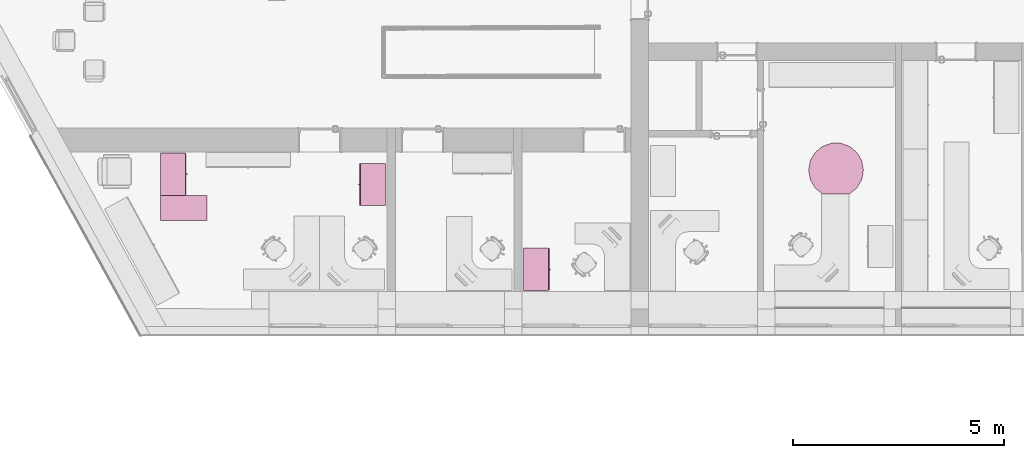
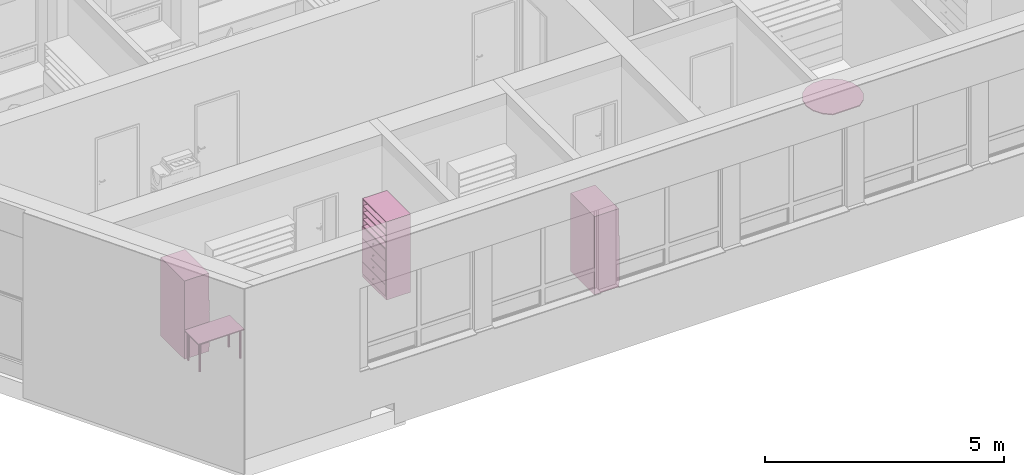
# One storey, part 128 of 194: 5 furnishings.
"""IFC2X3 building model written with IfcOpenShell, lengths in millimetres."""

from ifc_helpers import new_model, entity, si_unit, converted_unit, derived_unit, money_unit, direction, frame, origin_with_axes, place, context, subcontext, project, spatial, faceted_brep, source, transform, mapped, type_object, element, save


model = new_model("IFC2X3")

# Units and contexts
model_context = context("Model", 3, precision=1e-05, world=origin_with_axes(), true_north=direction((0.0, 1.0)))
body_context = subcontext(model_context, "Body", "Model", "MODEL_VIEW")
ifc_project = project(units=[si_unit("LENGTHUNIT", "METRE", prefix="MILLI"), si_unit("AREAUNIT", "SQUARE_METRE"), si_unit("VOLUMEUNIT", "CUBIC_METRE"), converted_unit("PLANEANGLEUNIT", "DEGREE", entity("IfcPlaneAngleMeasure", 0.0174532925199), si_unit("PLANEANGLEUNIT", "RADIAN"), dimensions=[0, 0, 0, 0, 0, 0, 0]), si_unit("SOLIDANGLEUNIT", "STERADIAN"), money_unit("EUR"), converted_unit("TIMEUNIT", "Year", entity("IfcTimeMeasure", 31556926.0), si_unit("TIMEUNIT", "SECOND"), dimensions=[0, 0, 1, 0, 0, 0, 0]), si_unit("MASSUNIT", "GRAM", prefix="KILO"), si_unit("THERMODYNAMICTEMPERATUREUNIT", "DEGREE_CELSIUS"), si_unit("LUMINOUSINTENSITYUNIT", "LUMEN"), si_unit("ENERGYUNIT", "JOULE", prefix="MEGA"), derived_unit("THERMALCONDUCTANCEUNIT", [(si_unit("POWERUNIT", "WATT"), 1), (si_unit("LENGTHUNIT", "METRE"), -1), (si_unit("THERMODYNAMICTEMPERATUREUNIT", "KELVIN"), -1)]), derived_unit("SPECIFICHEATCAPACITYUNIT", [(si_unit("ENERGYUNIT", "JOULE"), 1), (si_unit("MASSUNIT", "GRAM", prefix="KILO"), -1), (si_unit("THERMODYNAMICTEMPERATUREUNIT", "KELVIN"), -1)]), derived_unit("MASSDENSITYUNIT", [(si_unit("MASSUNIT", "GRAM", prefix="KILO"), 1), (si_unit("VOLUMEUNIT", "CUBIC_METRE"), -1)])], contexts=[model_context])

# Site, building, storey
site_placement = place(None, origin_with_axes())
site = spatial("IfcSite", under=ifc_project, at=site_placement, Name="Site", CompositionType="ELEMENT")
building_placement = place(site_placement, origin_with_axes())
building = spatial("IfcBuilding", under=site, at=building_placement, Name="Building", CompositionType="ELEMENT")
storey_placement = place(building_placement, frame((0.0, 0.0, 3000.0), z_axis=(0.0, 0.0, 1.0), x_axis=(1.0, 0.0, 0.0)))
storey = spatial("IfcBuildingStorey", under=building, at=storey_placement, Name="2 KORRUS", CompositionType="ELEMENT", Elevation=3000.0)

# Furnishings
furnishing_element_type_1 = type_object("IfcFurnishingElementType", Name="Model Element 22")
shared_shape_1 = source(origin_with_axes(), body_context, "Body", "Brep", [
    faceted_brep([(562.91651246, -325.0, 725.0), (562.91651246, 325.0, 725.0), (562.91651246, 325.0, 750.0), (562.91651246, -325.0, 750.0), (417.811946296, -497.928888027, 725.0), (222.313093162, -610.800203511, 725.0), (0.0, -650.0, 725.0), (-222.313093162, -610.800203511, 725.0), (-417.811946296, -497.928888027, 725.0), (-562.91651246, -325.0, 725.0), (-640.125039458, -112.871315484, 725.0), (-640.125039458, 112.871315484, 725.0), (-562.91651246, 325.0, 725.0), (-417.811946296, 497.928888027, 725.0), (-222.313093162, 610.800203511, 725.0), (0.0, 650.0, 725.0), (222.313093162, 610.800203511, 725.0), (417.811946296, 497.928888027, 725.0), (417.811946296, 497.928888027, 750.0), (222.313093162, 610.800203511, 750.0), (0.0, 650.0, 750.0), (-222.313093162, 610.800203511, 750.0), (-417.811946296, 497.928888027, 750.0), (-562.91651246, 325.0, 750.0), (-640.125039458, 112.871315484, 750.0), (-640.125039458, -112.871315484, 750.0), (-562.91651246, -325.0, 750.0), (-417.811946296, -497.928888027, 750.0), (-222.313093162, -610.800203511, 750.0), (0.0, -650.0, 750.0), (222.313093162, -610.800203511, 750.0), (417.811946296, -497.928888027, 750.0)], [[[0, 1, 2, 3]], [[0, 4, 5, 6, 7, 8, 9, 10, 11, 12, 13, 14, 15, 16, 17, 1]], [[1, 17, 18, 2]], [[3, 2, 18, 19, 20, 21, 22, 23, 24, 25, 26, 27, 28, 29, 30, 31]], [[4, 0, 3, 31]], [[5, 4, 31, 30]], [[6, 5, 30, 29]], [[7, 6, 29, 28]], [[8, 7, 28, 27]], [[9, 8, 27, 26]], [[10, 9, 26, 25]], [[11, 10, 25, 24]], [[12, 11, 24, 23]], [[13, 12, 23, 22]], [[14, 13, 22, 21]], [[15, 14, 21, 20]], [[16, 15, 20, 19]], [[17, 16, 19, 18]]]),
])
furnishing_1_placement = place(storey_placement, frame((20599.5373297, 62610.3418726, 0.0), z_axis=(0.0, 0.0, 1.0), x_axis=(0.0, -1.0, 0.0)))
element("IfcFurnishingElement", 1, at=furnishing_1_placement, inside=storey, type_object=furnishing_element_type_1, Name="FU - 005", context=body_context, shape_type="MappedRepresentation", body=[
    mapped(shared_shape_1, transform((0.0, 0.0, 0.0))),
])
furnishing_element_type_2 = type_object("IfcFurnishingElementType", Name="Model Element 80")
shared_shape_2 = source(origin_with_axes(), body_context, "Body", "Brep", [
    faceted_brep([(0.0, 0.0, 725.0), (1100.0, 0.0, 725.0), (1100.0, 0.0, 750.0), (0.0, 0.0, 750.0), (0.0, 600.0, 725.0), (1100.0, 600.0, 725.0), (1100.0, 600.0, 750.0), (0.0, 600.0, 750.0)], [[[0, 1, 2, 3]], [[0, 4, 5, 1]], [[1, 5, 6, 2]], [[3, 2, 6, 7]], [[4, 0, 3, 7]], [[5, 4, 7, 6]]]),
    faceted_brep([(77.6776695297, 77.6776695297, 10.0), (85.0, 60.0, 10.0), (77.6776695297, 42.3223304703, 10.0), (60.0, 35.0, 10.0), (42.3223304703, 42.3223304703, 10.0), (35.0, 60.0, 10.0), (42.3223304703, 77.6776695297, 10.0), (60.0, 85.0, 10.0), (77.6776695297, 77.6776695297, 725.0), (85.0, 60.0, 725.0), (77.6776695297, 42.3223304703, 725.0), (60.0, 35.0, 725.0), (42.3223304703, 42.3223304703, 725.0), (35.0, 60.0, 725.0), (42.3223304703, 77.6776695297, 725.0), (60.0, 85.0, 725.0)], [[[0, 1, 2, 3, 4, 5, 6, 7]], [[1, 0, 8, 9]], [[2, 1, 9, 10]], [[3, 2, 10, 11]], [[4, 3, 11, 12]], [[5, 4, 12, 13]], [[6, 5, 13, 14]], [[7, 6, 14, 15]], [[0, 7, 15, 8]], [[8, 15, 14, 13, 12, 11, 10, 9]]]),
    faceted_brep([(81.2132034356, 81.2132034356, 0.0), (90.0, 60.0, 0.0), (81.2132034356, 38.7867965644, 0.0), (60.0, 30.0, 0.0), (38.7867965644, 38.7867965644, 0.0), (30.0, 60.0, 0.0), (38.7867965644, 81.2132034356, 0.0), (60.0, 90.0, 0.0), (81.2132034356, 81.2132034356, 10.0), (90.0, 60.0, 10.0), (81.2132034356, 38.7867965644, 10.0), (60.0, 30.0, 10.0), (38.7867965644, 38.7867965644, 10.0), (30.0, 60.0, 10.0), (38.7867965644, 81.2132034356, 10.0), (60.0, 90.0, 10.0)], [[[0, 1, 2, 3, 4, 5, 6, 7]], [[1, 0, 8, 9]], [[2, 1, 9, 10]], [[3, 2, 10, 11]], [[4, 3, 11, 12]], [[5, 4, 12, 13]], [[6, 5, 13, 14]], [[7, 6, 14, 15]], [[0, 7, 15, 8]], [[8, 15, 14, 13, 12, 11, 10, 9]]]),
    faceted_brep([(77.6776695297, 557.67766953, 10.0), (85.0, 540.0, 10.0), (77.6776695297, 522.32233047, 10.0), (60.0, 515.0, 10.0), (42.3223304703, 522.32233047, 10.0), (35.0, 540.0, 10.0), (42.3223304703, 557.67766953, 10.0), (60.0, 565.0, 10.0), (77.6776695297, 557.67766953, 725.0), (85.0, 540.0, 725.0), (77.6776695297, 522.32233047, 725.0), (60.0, 515.0, 725.0), (42.3223304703, 522.32233047, 725.0), (35.0, 540.0, 725.0), (42.3223304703, 557.67766953, 725.0), (60.0, 565.0, 725.0)], [[[0, 1, 2, 3, 4, 5, 6, 7]], [[1, 0, 8, 9]], [[2, 1, 9, 10]], [[3, 2, 10, 11]], [[4, 3, 11, 12]], [[5, 4, 12, 13]], [[6, 5, 13, 14]], [[7, 6, 14, 15]], [[0, 7, 15, 8]], [[8, 15, 14, 13, 12, 11, 10, 9]]]),
    faceted_brep([(81.2132034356, 561.213203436, 0.0), (90.0, 540.0, 0.0), (81.2132034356, 518.786796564, 0.0), (60.0, 510.0, 0.0), (38.7867965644, 518.786796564, 0.0), (30.0, 540.0, 0.0), (38.7867965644, 561.213203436, 0.0), (60.0, 570.0, 0.0), (81.2132034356, 561.213203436, 10.0), (90.0, 540.0, 10.0), (81.2132034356, 518.786796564, 10.0), (60.0, 510.0, 10.0), (38.7867965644, 518.786796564, 10.0), (30.0, 540.0, 10.0), (38.7867965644, 561.213203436, 10.0), (60.0, 570.0, 10.0)], [[[0, 1, 2, 3, 4, 5, 6, 7]], [[1, 0, 8, 9]], [[2, 1, 9, 10]], [[3, 2, 10, 11]], [[4, 3, 11, 12]], [[5, 4, 12, 13]], [[6, 5, 13, 14]], [[7, 6, 14, 15]], [[0, 7, 15, 8]], [[8, 15, 14, 13, 12, 11, 10, 9]]]),
    faceted_brep([(1057.67766953, 77.6776695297, 10.0), (1065.0, 60.0, 10.0), (1057.67766953, 42.3223304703, 10.0), (1040.0, 35.0, 10.0), (1022.32233047, 42.3223304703, 10.0), (1015.0, 60.0, 10.0), (1022.32233047, 77.6776695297, 10.0), (1040.0, 85.0, 10.0), (1057.67766953, 77.6776695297, 725.0), (1065.0, 60.0, 725.0), (1057.67766953, 42.3223304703, 725.0), (1040.0, 35.0, 725.0), (1022.32233047, 42.3223304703, 725.0), (1015.0, 60.0, 725.0), (1022.32233047, 77.6776695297, 725.0), (1040.0, 85.0, 725.0)], [[[0, 1, 2, 3, 4, 5, 6, 7]], [[1, 0, 8, 9]], [[2, 1, 9, 10]], [[3, 2, 10, 11]], [[4, 3, 11, 12]], [[5, 4, 12, 13]], [[6, 5, 13, 14]], [[7, 6, 14, 15]], [[0, 7, 15, 8]], [[8, 15, 14, 13, 12, 11, 10, 9]]]),
    faceted_brep([(1061.21320344, 81.2132034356, 0.0), (1070.0, 60.0, 0.0), (1061.21320344, 38.7867965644, 0.0), (1040.0, 30.0, 0.0), (1018.78679656, 38.7867965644, 0.0), (1010.0, 60.0, 0.0), (1018.78679656, 81.2132034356, 0.0), (1040.0, 90.0, 0.0), (1061.21320344, 81.2132034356, 10.0), (1070.0, 60.0, 10.0), (1061.21320344, 38.7867965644, 10.0), (1040.0, 30.0, 10.0), (1018.78679656, 38.7867965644, 10.0), (1010.0, 60.0, 10.0), (1018.78679656, 81.2132034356, 10.0), (1040.0, 90.0, 10.0)], [[[0, 1, 2, 3, 4, 5, 6, 7]], [[1, 0, 8, 9]], [[2, 1, 9, 10]], [[3, 2, 10, 11]], [[4, 3, 11, 12]], [[5, 4, 12, 13]], [[6, 5, 13, 14]], [[7, 6, 14, 15]], [[0, 7, 15, 8]], [[8, 15, 14, 13, 12, 11, 10, 9]]]),
    faceted_brep([(1057.67766953, 557.67766953, 10.0), (1065.0, 540.0, 10.0), (1057.67766953, 522.32233047, 10.0), (1040.0, 515.0, 10.0), (1022.32233047, 522.32233047, 10.0), (1015.0, 540.0, 10.0), (1022.32233047, 557.67766953, 10.0), (1040.0, 565.0, 10.0), (1057.67766953, 557.67766953, 725.0), (1065.0, 540.0, 725.0), (1057.67766953, 522.32233047, 725.0), (1040.0, 515.0, 725.0), (1022.32233047, 522.32233047, 725.0), (1015.0, 540.0, 725.0), (1022.32233047, 557.67766953, 725.0), (1040.0, 565.0, 725.0)], [[[0, 1, 2, 3, 4, 5, 6, 7]], [[1, 0, 8, 9]], [[2, 1, 9, 10]], [[3, 2, 10, 11]], [[4, 3, 11, 12]], [[5, 4, 12, 13]], [[6, 5, 13, 14]], [[7, 6, 14, 15]], [[0, 7, 15, 8]], [[8, 15, 14, 13, 12, 11, 10, 9]]]),
    faceted_brep([(1061.21320344, 561.213203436, 0.0), (1070.0, 540.0, 0.0), (1061.21320344, 518.786796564, 0.0), (1040.0, 510.0, 0.0), (1018.78679656, 518.786796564, 0.0), (1010.0, 540.0, 0.0), (1018.78679656, 561.213203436, 0.0), (1040.0, 570.0, 0.0), (1061.21320344, 561.213203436, 10.0), (1070.0, 540.0, 10.0), (1061.21320344, 518.786796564, 10.0), (1040.0, 510.0, 10.0), (1018.78679656, 518.786796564, 10.0), (1010.0, 540.0, 10.0), (1018.78679656, 561.213203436, 10.0), (1040.0, 570.0, 10.0)], [[[0, 1, 2, 3, 4, 5, 6, 7]], [[1, 0, 8, 9]], [[2, 1, 9, 10]], [[3, 2, 10, 11]], [[4, 3, 11, 12]], [[5, 4, 12, 13]], [[6, 5, 13, 14]], [[7, 6, 14, 15]], [[0, 7, 15, 8]], [[8, 15, 14, 13, 12, 11, 10, 9]]]),
])
furnishing_2_placement = place(storey_placement, frame((4582.94891603, 61415.2296808, 0.0), z_axis=(0.0, 0.0, 1.0), x_axis=(1.0, 0.0, 0.0)))
element("IfcFurnishingElement", 2, at=furnishing_2_placement, inside=storey, type_object=furnishing_element_type_2, Name="FU - 007", context=body_context, shape_type="MappedRepresentation", body=[
    mapped(shared_shape_2, transform((0.0, 0.0, 0.0))),
])
furnishing_element_type_3 = type_object("IfcFurnishingElementType", Name="Model Element 30")
shared_shape_3 = source(origin_with_axes(), body_context, "Body", "Brep", [
    faceted_brep([(1000.0, 19.0, 0.0), (0.0, 19.0, 0.0), (0.0, 607.542755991, 0.0), (1000.0, 607.542755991, 0.0), (1000.0, 19.0, 100.0), (0.0, 19.0, 100.0), (0.0, 607.542755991, 100.0), (1000.0, 607.542755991, 100.0)], [[[0, 1, 2, 3]], [[1, 0, 4, 5]], [[2, 1, 5, 6]], [[3, 2, 6, 7]], [[0, 3, 7, 4]], [[5, 4, 7, 6]]]),
    faceted_brep([(19.0, 607.542755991, 119.0), (19.0, 588.542755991, 119.0), (19.0, 588.542755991, 1981.0), (19.0, 607.542755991, 1981.0), (981.0, 607.542755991, 119.0), (981.0, 588.542755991, 119.0), (981.0, 588.542755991, 1981.0), (981.0, 607.542755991, 1981.0)], [[[0, 1, 2, 3]], [[0, 4, 5, 1]], [[1, 5, 6, 2]], [[3, 2, 6, 7]], [[4, 0, 3, 7]], [[5, 4, 7, 6]]]),
    faceted_brep([(1000.0, 19.0, 100.0), (981.0, 19.0, 100.0), (981.0, 607.542755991, 100.0), (1000.0, 607.542755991, 100.0), (1000.0, 19.0, 2000.0), (981.0, 19.0, 2000.0), (981.0, 607.542755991, 2000.0), (1000.0, 607.542755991, 2000.0)], [[[0, 1, 2, 3]], [[1, 0, 4, 5]], [[2, 1, 5, 6]], [[3, 2, 6, 7]], [[0, 3, 7, 4]], [[5, 4, 7, 6]]]),
    faceted_brep([(19.0, 19.0, 100.0), (0.0, 19.0, 100.0), (0.0, 607.542755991, 100.0), (19.0, 607.542755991, 100.0), (19.0, 19.0, 2000.0), (0.0, 19.0, 2000.0), (0.0, 607.542755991, 2000.0), (19.0, 607.542755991, 2000.0)], [[[0, 1, 2, 3]], [[1, 0, 4, 5]], [[2, 1, 5, 6]], [[3, 2, 6, 7]], [[0, 3, 7, 4]], [[5, 4, 7, 6]]]),
    faceted_brep([(981.0, 19.0, 100.0), (19.0, 19.0, 100.0), (19.0, 607.542755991, 100.0), (981.0, 607.542755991, 100.0), (981.0, 19.0, 119.0), (19.0, 19.0, 119.0), (19.0, 607.542755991, 119.0), (981.0, 607.542755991, 119.0)], [[[0, 1, 2, 3]], [[1, 0, 4, 5]], [[2, 1, 5, 6]], [[3, 2, 6, 7]], [[0, 3, 7, 4]], [[5, 4, 7, 6]]]),
    faceted_brep([(981.0, 19.0, 1981.0), (19.0, 19.0, 1981.0), (19.0, 607.542755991, 1981.0), (981.0, 607.542755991, 1981.0), (981.0, 19.0, 2000.0), (19.0, 19.0, 2000.0), (19.0, 607.542755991, 2000.0), (981.0, 607.542755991, 2000.0)], [[[0, 1, 2, 3]], [[1, 0, 4, 5]], [[2, 1, 5, 6]], [[3, 2, 6, 7]], [[0, 3, 7, 4]], [[5, 4, 7, 6]]]),
    faceted_brep([(5.0, 19.0, 105.0), (995.0, 19.0, 105.0), (995.0, 0.0, 105.0), (5.0, 0.0, 105.0), (5.0, 19.0, 395.0), (995.0, 19.0, 395.0), (995.0, 0.0, 395.0), (5.0, 0.0, 395.0)], [[[0, 1, 2, 3]], [[0, 4, 5, 1]], [[1, 5, 6, 2]], [[3, 2, 6, 7]], [[4, 0, 3, 7]], [[5, 4, 7, 6]]]),
    faceted_brep([(510.392304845, 0.0, 244.0), (506.0, 0.0, 239.607695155), (500.0, 0.0, 238.0), (494.0, 0.0, 239.607695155), (489.607695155, 0.0, 244.0), (488.0, 0.0, 250.0), (489.607695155, 0.0, 256.0), (494.0, 0.0, 260.392304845), (500.0, 0.0, 262.0), (506.0, 0.0, 260.392304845), (510.392304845, 0.0, 256.0), (512.0, 0.0, 250.0), (510.392304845, -25.0, 244.0), (506.0, -25.0, 239.607695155), (500.0, -25.0, 238.0), (494.0, -25.0, 239.607695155), (489.607695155, -25.0, 244.0), (488.0, -25.0, 250.0), (489.607695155, -25.0, 256.0), (494.0, -25.0, 260.392304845), (500.0, -25.0, 262.0), (506.0, -25.0, 260.392304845), (510.392304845, -25.0, 256.0), (512.0, -25.0, 250.0)], [[[0, 1, 2, 3, 4, 5, 6, 7, 8, 9, 10, 11]], [[1, 0, 12, 13]], [[2, 1, 13, 14]], [[3, 2, 14, 15]], [[4, 3, 15, 16]], [[5, 4, 16, 17]], [[6, 5, 17, 18]], [[7, 6, 18, 19]], [[8, 7, 19, 20]], [[9, 8, 20, 21]], [[10, 9, 21, 22]], [[11, 10, 22, 23]], [[0, 11, 23, 12]], [[12, 23, 22, 21, 20, 19, 18, 17, 16, 15, 14, 13]]]),
    faceted_brep([(5.0, 19.0, 405.0), (995.0, 19.0, 405.0), (995.0, 0.0, 405.0), (5.0, 0.0, 405.0), (5.0, 19.0, 695.0), (995.0, 19.0, 695.0), (995.0, 0.0, 695.0), (5.0, 0.0, 695.0)], [[[0, 1, 2, 3]], [[0, 4, 5, 1]], [[1, 5, 6, 2]], [[3, 2, 6, 7]], [[4, 0, 3, 7]], [[5, 4, 7, 6]]]),
    faceted_brep([(510.392304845, 0.0, 544.0), (506.0, 0.0, 539.607695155), (500.0, 0.0, 538.0), (494.0, 0.0, 539.607695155), (489.607695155, 0.0, 544.0), (488.0, 0.0, 550.0), (489.607695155, 0.0, 556.0), (494.0, 0.0, 560.392304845), (500.0, 0.0, 562.0), (506.0, 0.0, 560.392304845), (510.392304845, 0.0, 556.0), (512.0, 0.0, 550.0), (510.392304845, -25.0, 544.0), (506.0, -25.0, 539.607695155), (500.0, -25.0, 538.0), (494.0, -25.0, 539.607695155), (489.607695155, -25.0, 544.0), (488.0, -25.0, 550.0), (489.607695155, -25.0, 556.0), (494.0, -25.0, 560.392304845), (500.0, -25.0, 562.0), (506.0, -25.0, 560.392304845), (510.392304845, -25.0, 556.0), (512.0, -25.0, 550.0)], [[[0, 1, 2, 3, 4, 5, 6, 7, 8, 9, 10, 11]], [[1, 0, 12, 13]], [[2, 1, 13, 14]], [[3, 2, 14, 15]], [[4, 3, 15, 16]], [[5, 4, 16, 17]], [[6, 5, 17, 18]], [[7, 6, 18, 19]], [[8, 7, 19, 20]], [[9, 8, 20, 21]], [[10, 9, 21, 22]], [[11, 10, 22, 23]], [[0, 11, 23, 12]], [[12, 23, 22, 21, 20, 19, 18, 17, 16, 15, 14, 13]]]),
    faceted_brep([(5.0, 19.0, 705.0), (995.0, 19.0, 705.0), (995.0, 0.0, 705.0), (5.0, 0.0, 705.0), (5.0, 19.0, 995.0), (995.0, 19.0, 995.0), (995.0, 0.0, 995.0), (5.0, 0.0, 995.0)], [[[0, 1, 2, 3]], [[0, 4, 5, 1]], [[1, 5, 6, 2]], [[3, 2, 6, 7]], [[4, 0, 3, 7]], [[5, 4, 7, 6]]]),
    faceted_brep([(510.392304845, 0.0, 844.0), (506.0, 0.0, 839.607695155), (500.0, 0.0, 838.0), (494.0, 0.0, 839.607695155), (489.607695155, 0.0, 844.0), (488.0, 0.0, 850.0), (489.607695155, 0.0, 856.0), (494.0, 0.0, 860.392304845), (500.0, 0.0, 862.0), (506.0, 0.0, 860.392304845), (510.392304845, 0.0, 856.0), (512.0, 0.0, 850.0), (510.392304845, -25.0, 844.0), (506.0, -25.0, 839.607695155), (500.0, -25.0, 838.0), (494.0, -25.0, 839.607695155), (489.607695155, -25.0, 844.0), (488.0, -25.0, 850.0), (489.607695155, -25.0, 856.0), (494.0, -25.0, 860.392304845), (500.0, -25.0, 862.0), (506.0, -25.0, 860.392304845), (510.392304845, -25.0, 856.0), (512.0, -25.0, 850.0)], [[[0, 1, 2, 3, 4, 5, 6, 7, 8, 9, 10, 11]], [[1, 0, 12, 13]], [[2, 1, 13, 14]], [[3, 2, 14, 15]], [[4, 3, 15, 16]], [[5, 4, 16, 17]], [[6, 5, 17, 18]], [[7, 6, 18, 19]], [[8, 7, 19, 20]], [[9, 8, 20, 21]], [[10, 9, 21, 22]], [[11, 10, 22, 23]], [[0, 11, 23, 12]], [[12, 23, 22, 21, 20, 19, 18, 17, 16, 15, 14, 13]]]),
    faceted_brep([(5.0, 19.0, 1005.0), (995.0, 19.0, 1005.0), (995.0, 0.0, 1005.0), (5.0, 0.0, 1005.0), (5.0, 19.0, 1295.0), (995.0, 19.0, 1295.0), (995.0, 0.0, 1295.0), (5.0, 0.0, 1295.0)], [[[0, 1, 2, 3]], [[0, 4, 5, 1]], [[1, 5, 6, 2]], [[3, 2, 6, 7]], [[4, 0, 3, 7]], [[5, 4, 7, 6]]]),
    faceted_brep([(510.392304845, 0.0, 1144.0), (506.0, 0.0, 1139.60769515), (500.0, 0.0, 1138.0), (494.0, 0.0, 1139.60769515), (489.607695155, 0.0, 1144.0), (488.0, 0.0, 1150.0), (489.607695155, 0.0, 1156.0), (494.0, 0.0, 1160.39230485), (500.0, 0.0, 1162.0), (506.0, 0.0, 1160.39230485), (510.392304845, 0.0, 1156.0), (512.0, 0.0, 1150.0), (510.392304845, -25.0, 1144.0), (506.0, -25.0, 1139.60769515), (500.0, -25.0, 1138.0), (494.0, -25.0, 1139.60769515), (489.607695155, -25.0, 1144.0), (488.0, -25.0, 1150.0), (489.607695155, -25.0, 1156.0), (494.0, -25.0, 1160.39230485), (500.0, -25.0, 1162.0), (506.0, -25.0, 1160.39230485), (510.392304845, -25.0, 1156.0), (512.0, -25.0, 1150.0)], [[[0, 1, 2, 3, 4, 5, 6, 7, 8, 9, 10, 11]], [[1, 0, 12, 13]], [[2, 1, 13, 14]], [[3, 2, 14, 15]], [[4, 3, 15, 16]], [[5, 4, 16, 17]], [[6, 5, 17, 18]], [[7, 6, 18, 19]], [[8, 7, 19, 20]], [[9, 8, 20, 21]], [[10, 9, 21, 22]], [[11, 10, 22, 23]], [[0, 11, 23, 12]], [[12, 23, 22, 21, 20, 19, 18, 17, 16, 15, 14, 13]]]),
    faceted_brep([(19.0, 19.0, 390.5), (981.0, 19.0, 390.5), (981.0, 19.0, 409.5), (19.0, 19.0, 409.5), (19.0, 588.542755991, 390.5), (981.0, 588.542755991, 390.5), (981.0, 588.542755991, 409.5), (19.0, 588.542755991, 409.5)], [[[0, 1, 2, 3]], [[0, 4, 5, 1]], [[1, 5, 6, 2]], [[3, 2, 6, 7]], [[4, 0, 3, 7]], [[5, 4, 7, 6]]]),
    faceted_brep([(19.0, 19.0, 690.5), (981.0, 19.0, 690.5), (981.0, 19.0, 709.5), (19.0, 19.0, 709.5), (19.0, 588.542755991, 690.5), (981.0, 588.542755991, 690.5), (981.0, 588.542755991, 709.5), (19.0, 588.542755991, 709.5)], [[[0, 1, 2, 3]], [[0, 4, 5, 1]], [[1, 5, 6, 2]], [[3, 2, 6, 7]], [[4, 0, 3, 7]], [[5, 4, 7, 6]]]),
    faceted_brep([(19.0, 19.0, 990.5), (981.0, 19.0, 990.5), (981.0, 19.0, 1009.5), (19.0, 19.0, 1009.5), (19.0, 588.542755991, 990.5), (981.0, 588.542755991, 990.5), (981.0, 588.542755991, 1009.5), (19.0, 588.542755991, 1009.5)], [[[0, 1, 2, 3]], [[0, 4, 5, 1]], [[1, 5, 6, 2]], [[3, 2, 6, 7]], [[4, 0, 3, 7]], [[5, 4, 7, 6]]]),
    faceted_brep([(19.0, 19.0, 1290.5), (981.0, 19.0, 1290.5), (981.0, 19.0, 1309.5), (19.0, 19.0, 1309.5), (19.0, 588.542755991, 1290.5), (981.0, 588.542755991, 1290.5), (981.0, 588.542755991, 1309.5), (19.0, 588.542755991, 1309.5)], [[[0, 1, 2, 3]], [[0, 4, 5, 1]], [[1, 5, 6, 2]], [[3, 2, 6, 7]], [[4, 0, 3, 7]], [[5, 4, 7, 6]]]),
    faceted_brep([(981.0, 19.0, 1463.125), (19.0, 19.0, 1463.125), (19.0, 588.542755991, 1463.125), (981.0, 588.542755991, 1463.125), (981.0, 19.0, 1482.125), (19.0, 19.0, 1482.125), (19.0, 588.542755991, 1482.125), (981.0, 588.542755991, 1482.125)], [[[0, 1, 2, 3]], [[1, 0, 4, 5]], [[2, 1, 5, 6]], [[3, 2, 6, 7]], [[0, 3, 7, 4]], [[5, 4, 7, 6]]]),
    faceted_brep([(981.0, 19.0, 1635.75), (19.0, 19.0, 1635.75), (19.0, 588.542755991, 1635.75), (981.0, 588.542755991, 1635.75), (981.0, 19.0, 1654.75), (19.0, 19.0, 1654.75), (19.0, 588.542755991, 1654.75), (981.0, 588.542755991, 1654.75)], [[[0, 1, 2, 3]], [[1, 0, 4, 5]], [[2, 1, 5, 6]], [[3, 2, 6, 7]], [[0, 3, 7, 4]], [[5, 4, 7, 6]]]),
    faceted_brep([(981.0, 19.0, 1808.375), (19.0, 19.0, 1808.375), (19.0, 588.542755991, 1808.375), (981.0, 588.542755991, 1808.375), (981.0, 19.0, 1827.375), (19.0, 19.0, 1827.375), (19.0, 588.542755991, 1827.375), (981.0, 588.542755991, 1827.375)], [[[0, 1, 2, 3]], [[1, 0, 4, 5]], [[2, 1, 5, 6]], [[3, 2, 6, 7]], [[0, 3, 7, 4]], [[5, 4, 7, 6]]]),
])
for number, where, z_axis, x_axis, name in (
    (3, (13799.6809556, 59760.1822512, 0.0), (0.0, 0.0, 1.0), (0.00064265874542, 0.999999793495, 0.0), "FU - 001"),
    (4, (5190.49154655, 62014.8392379, 0.0), (0.0, 0.0, 1.0), (0.00064265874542, 0.999999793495, 0.0), "FU - 001"),
):
    element("IfcFurnishingElement", number, at=place(storey_placement, frame(where, z_axis=z_axis, x_axis=x_axis)), inside=storey, type_object=furnishing_element_type_3, Name=name, context=body_context, shape_type="MappedRepresentation", body=[
        mapped(shared_shape_3, transform((0.0, 0.0, 0.0))),
    ])
furnishing_element_type_4 = type_object("IfcFurnishingElementType", Name="Model Element 23")
shared_shape_4 = source(origin_with_axes(), body_context, "Body", "Brep", [
    faceted_brep([(1000.0, 19.0, 0.0), (0.0, 19.0, 0.0), (0.0, 608.037064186, 0.0), (1000.0, 608.037064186, 0.0), (1000.0, 19.0, 100.0), (0.0, 19.0, 100.0), (0.0, 608.037064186, 100.0), (1000.0, 608.037064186, 100.0)], [[[0, 1, 2, 3]], [[1, 0, 4, 5]], [[2, 1, 5, 6]], [[3, 2, 6, 7]], [[0, 3, 7, 4]], [[5, 4, 7, 6]]]),
    faceted_brep([(19.0, 608.037064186, 119.0), (19.0, 589.037064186, 119.0), (19.0, 589.037064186, 1981.0), (19.0, 608.037064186, 1981.0), (981.0, 608.037064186, 119.0), (981.0, 589.037064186, 119.0), (981.0, 589.037064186, 1981.0), (981.0, 608.037064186, 1981.0)], [[[0, 1, 2, 3]], [[0, 4, 5, 1]], [[1, 5, 6, 2]], [[3, 2, 6, 7]], [[4, 0, 3, 7]], [[5, 4, 7, 6]]]),
    faceted_brep([(1000.0, 19.0, 100.0), (981.0, 19.0, 100.0), (981.0, 608.037064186, 100.0), (1000.0, 608.037064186, 100.0), (1000.0, 19.0, 2000.0), (981.0, 19.0, 2000.0), (981.0, 608.037064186, 2000.0), (1000.0, 608.037064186, 2000.0)], [[[0, 1, 2, 3]], [[1, 0, 4, 5]], [[2, 1, 5, 6]], [[3, 2, 6, 7]], [[0, 3, 7, 4]], [[5, 4, 7, 6]]]),
    faceted_brep([(19.0, 19.0, 100.0), (0.0, 19.0, 100.0), (0.0, 608.037064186, 100.0), (19.0, 608.037064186, 100.0), (19.0, 19.0, 2000.0), (0.0, 19.0, 2000.0), (0.0, 608.037064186, 2000.0), (19.0, 608.037064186, 2000.0)], [[[0, 1, 2, 3]], [[1, 0, 4, 5]], [[2, 1, 5, 6]], [[3, 2, 6, 7]], [[0, 3, 7, 4]], [[5, 4, 7, 6]]]),
    faceted_brep([(981.0, 19.0, 100.0), (19.0, 19.0, 100.0), (19.0, 608.037064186, 100.0), (981.0, 608.037064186, 100.0), (981.0, 19.0, 119.0), (19.0, 19.0, 119.0), (19.0, 608.037064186, 119.0), (981.0, 608.037064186, 119.0)], [[[0, 1, 2, 3]], [[1, 0, 4, 5]], [[2, 1, 5, 6]], [[3, 2, 6, 7]], [[0, 3, 7, 4]], [[5, 4, 7, 6]]]),
    faceted_brep([(981.0, 19.0, 1981.0), (19.0, 19.0, 1981.0), (19.0, 608.037064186, 1981.0), (981.0, 608.037064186, 1981.0), (981.0, 19.0, 2000.0), (19.0, 19.0, 2000.0), (19.0, 608.037064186, 2000.0), (981.0, 608.037064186, 2000.0)], [[[0, 1, 2, 3]], [[1, 0, 4, 5]], [[2, 1, 5, 6]], [[3, 2, 6, 7]], [[0, 3, 7, 4]], [[5, 4, 7, 6]]]),
    faceted_brep([(5.0, 19.0, 105.0), (995.0, 19.0, 105.0), (995.0, 0.0, 105.0), (5.0, 0.0, 105.0), (5.0, 19.0, 395.0), (995.0, 19.0, 395.0), (995.0, 0.0, 395.0), (5.0, 0.0, 395.0)], [[[0, 1, 2, 3]], [[0, 4, 5, 1]], [[1, 5, 6, 2]], [[3, 2, 6, 7]], [[4, 0, 3, 7]], [[5, 4, 7, 6]]]),
    faceted_brep([(510.392304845, 0.0, 244.0), (506.0, 0.0, 239.607695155), (500.0, 0.0, 238.0), (494.0, 0.0, 239.607695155), (489.607695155, 0.0, 244.0), (488.0, 0.0, 250.0), (489.607695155, 0.0, 256.0), (494.0, 0.0, 260.392304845), (500.0, 0.0, 262.0), (506.0, 0.0, 260.392304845), (510.392304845, 0.0, 256.0), (512.0, 0.0, 250.0), (510.392304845, -25.0, 244.0), (506.0, -25.0, 239.607695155), (500.0, -25.0, 238.0), (494.0, -25.0, 239.607695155), (489.607695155, -25.0, 244.0), (488.0, -25.0, 250.0), (489.607695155, -25.0, 256.0), (494.0, -25.0, 260.392304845), (500.0, -25.0, 262.0), (506.0, -25.0, 260.392304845), (510.392304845, -25.0, 256.0), (512.0, -25.0, 250.0)], [[[0, 1, 2, 3, 4, 5, 6, 7, 8, 9, 10, 11]], [[1, 0, 12, 13]], [[2, 1, 13, 14]], [[3, 2, 14, 15]], [[4, 3, 15, 16]], [[5, 4, 16, 17]], [[6, 5, 17, 18]], [[7, 6, 18, 19]], [[8, 7, 19, 20]], [[9, 8, 20, 21]], [[10, 9, 21, 22]], [[11, 10, 22, 23]], [[0, 11, 23, 12]], [[12, 23, 22, 21, 20, 19, 18, 17, 16, 15, 14, 13]]]),
    faceted_brep([(5.0, 19.0, 405.0), (995.0, 19.0, 405.0), (995.0, 0.0, 405.0), (5.0, 0.0, 405.0), (5.0, 19.0, 695.0), (995.0, 19.0, 695.0), (995.0, 0.0, 695.0), (5.0, 0.0, 695.0)], [[[0, 1, 2, 3]], [[0, 4, 5, 1]], [[1, 5, 6, 2]], [[3, 2, 6, 7]], [[4, 0, 3, 7]], [[5, 4, 7, 6]]]),
    faceted_brep([(510.392304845, 0.0, 544.0), (506.0, 0.0, 539.607695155), (500.0, 0.0, 538.0), (494.0, 0.0, 539.607695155), (489.607695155, 0.0, 544.0), (488.0, 0.0, 550.0), (489.607695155, 0.0, 556.0), (494.0, 0.0, 560.392304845), (500.0, 0.0, 562.0), (506.0, 0.0, 560.392304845), (510.392304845, 0.0, 556.0), (512.0, 0.0, 550.0), (510.392304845, -25.0, 544.0), (506.0, -25.0, 539.607695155), (500.0, -25.0, 538.0), (494.0, -25.0, 539.607695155), (489.607695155, -25.0, 544.0), (488.0, -25.0, 550.0), (489.607695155, -25.0, 556.0), (494.0, -25.0, 560.392304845), (500.0, -25.0, 562.0), (506.0, -25.0, 560.392304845), (510.392304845, -25.0, 556.0), (512.0, -25.0, 550.0)], [[[0, 1, 2, 3, 4, 5, 6, 7, 8, 9, 10, 11]], [[1, 0, 12, 13]], [[2, 1, 13, 14]], [[3, 2, 14, 15]], [[4, 3, 15, 16]], [[5, 4, 16, 17]], [[6, 5, 17, 18]], [[7, 6, 18, 19]], [[8, 7, 19, 20]], [[9, 8, 20, 21]], [[10, 9, 21, 22]], [[11, 10, 22, 23]], [[0, 11, 23, 12]], [[12, 23, 22, 21, 20, 19, 18, 17, 16, 15, 14, 13]]]),
    faceted_brep([(5.0, 19.0, 705.0), (995.0, 19.0, 705.0), (995.0, 0.0, 705.0), (5.0, 0.0, 705.0), (5.0, 19.0, 995.0), (995.0, 19.0, 995.0), (995.0, 0.0, 995.0), (5.0, 0.0, 995.0)], [[[0, 1, 2, 3]], [[0, 4, 5, 1]], [[1, 5, 6, 2]], [[3, 2, 6, 7]], [[4, 0, 3, 7]], [[5, 4, 7, 6]]]),
    faceted_brep([(510.392304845, 0.0, 844.0), (506.0, 0.0, 839.607695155), (500.0, 0.0, 838.0), (494.0, 0.0, 839.607695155), (489.607695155, 0.0, 844.0), (488.0, 0.0, 850.0), (489.607695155, 0.0, 856.0), (494.0, 0.0, 860.392304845), (500.0, 0.0, 862.0), (506.0, 0.0, 860.392304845), (510.392304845, 0.0, 856.0), (512.0, 0.0, 850.0), (510.392304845, -25.0, 844.0), (506.0, -25.0, 839.607695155), (500.0, -25.0, 838.0), (494.0, -25.0, 839.607695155), (489.607695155, -25.0, 844.0), (488.0, -25.0, 850.0), (489.607695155, -25.0, 856.0), (494.0, -25.0, 860.392304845), (500.0, -25.0, 862.0), (506.0, -25.0, 860.392304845), (510.392304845, -25.0, 856.0), (512.0, -25.0, 850.0)], [[[0, 1, 2, 3, 4, 5, 6, 7, 8, 9, 10, 11]], [[1, 0, 12, 13]], [[2, 1, 13, 14]], [[3, 2, 14, 15]], [[4, 3, 15, 16]], [[5, 4, 16, 17]], [[6, 5, 17, 18]], [[7, 6, 18, 19]], [[8, 7, 19, 20]], [[9, 8, 20, 21]], [[10, 9, 21, 22]], [[11, 10, 22, 23]], [[0, 11, 23, 12]], [[12, 23, 22, 21, 20, 19, 18, 17, 16, 15, 14, 13]]]),
    faceted_brep([(5.0, 19.0, 1005.0), (995.0, 19.0, 1005.0), (995.0, 0.0, 1005.0), (5.0, 0.0, 1005.0), (5.0, 19.0, 1295.0), (995.0, 19.0, 1295.0), (995.0, 0.0, 1295.0), (5.0, 0.0, 1295.0)], [[[0, 1, 2, 3]], [[0, 4, 5, 1]], [[1, 5, 6, 2]], [[3, 2, 6, 7]], [[4, 0, 3, 7]], [[5, 4, 7, 6]]]),
    faceted_brep([(510.392304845, 0.0, 1144.0), (506.0, 0.0, 1139.60769515), (500.0, 0.0, 1138.0), (494.0, 0.0, 1139.60769515), (489.607695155, 0.0, 1144.0), (488.0, 0.0, 1150.0), (489.607695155, 0.0, 1156.0), (494.0, 0.0, 1160.39230485), (500.0, 0.0, 1162.0), (506.0, 0.0, 1160.39230485), (510.392304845, 0.0, 1156.0), (512.0, 0.0, 1150.0), (510.392304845, -25.0, 1144.0), (506.0, -25.0, 1139.60769515), (500.0, -25.0, 1138.0), (494.0, -25.0, 1139.60769515), (489.607695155, -25.0, 1144.0), (488.0, -25.0, 1150.0), (489.607695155, -25.0, 1156.0), (494.0, -25.0, 1160.39230485), (500.0, -25.0, 1162.0), (506.0, -25.0, 1160.39230485), (510.392304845, -25.0, 1156.0), (512.0, -25.0, 1150.0)], [[[0, 1, 2, 3, 4, 5, 6, 7, 8, 9, 10, 11]], [[1, 0, 12, 13]], [[2, 1, 13, 14]], [[3, 2, 14, 15]], [[4, 3, 15, 16]], [[5, 4, 16, 17]], [[6, 5, 17, 18]], [[7, 6, 18, 19]], [[8, 7, 19, 20]], [[9, 8, 20, 21]], [[10, 9, 21, 22]], [[11, 10, 22, 23]], [[0, 11, 23, 12]], [[12, 23, 22, 21, 20, 19, 18, 17, 16, 15, 14, 13]]]),
    faceted_brep([(19.0, 19.0, 390.5), (981.0, 19.0, 390.5), (981.0, 19.0, 409.5), (19.0, 19.0, 409.5), (19.0, 589.037064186, 390.5), (981.0, 589.037064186, 390.5), (981.0, 589.037064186, 409.5), (19.0, 589.037064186, 409.5)], [[[0, 1, 2, 3]], [[0, 4, 5, 1]], [[1, 5, 6, 2]], [[3, 2, 6, 7]], [[4, 0, 3, 7]], [[5, 4, 7, 6]]]),
    faceted_brep([(19.0, 19.0, 690.5), (981.0, 19.0, 690.5), (981.0, 19.0, 709.5), (19.0, 19.0, 709.5), (19.0, 589.037064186, 690.5), (981.0, 589.037064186, 690.5), (981.0, 589.037064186, 709.5), (19.0, 589.037064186, 709.5)], [[[0, 1, 2, 3]], [[0, 4, 5, 1]], [[1, 5, 6, 2]], [[3, 2, 6, 7]], [[4, 0, 3, 7]], [[5, 4, 7, 6]]]),
    faceted_brep([(19.0, 19.0, 990.5), (981.0, 19.0, 990.5), (981.0, 19.0, 1009.5), (19.0, 19.0, 1009.5), (19.0, 589.037064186, 990.5), (981.0, 589.037064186, 990.5), (981.0, 589.037064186, 1009.5), (19.0, 589.037064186, 1009.5)], [[[0, 1, 2, 3]], [[0, 4, 5, 1]], [[1, 5, 6, 2]], [[3, 2, 6, 7]], [[4, 0, 3, 7]], [[5, 4, 7, 6]]]),
    faceted_brep([(19.0, 19.0, 1290.5), (981.0, 19.0, 1290.5), (981.0, 19.0, 1309.5), (19.0, 19.0, 1309.5), (19.0, 589.037064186, 1290.5), (981.0, 589.037064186, 1290.5), (981.0, 589.037064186, 1309.5), (19.0, 589.037064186, 1309.5)], [[[0, 1, 2, 3]], [[0, 4, 5, 1]], [[1, 5, 6, 2]], [[3, 2, 6, 7]], [[4, 0, 3, 7]], [[5, 4, 7, 6]]]),
    faceted_brep([(981.0, 19.0, 1463.125), (19.0, 19.0, 1463.125), (19.0, 589.037064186, 1463.125), (981.0, 589.037064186, 1463.125), (981.0, 19.0, 1482.125), (19.0, 19.0, 1482.125), (19.0, 589.037064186, 1482.125), (981.0, 589.037064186, 1482.125)], [[[0, 1, 2, 3]], [[1, 0, 4, 5]], [[2, 1, 5, 6]], [[3, 2, 6, 7]], [[0, 3, 7, 4]], [[5, 4, 7, 6]]]),
    faceted_brep([(981.0, 19.0, 1635.75), (19.0, 19.0, 1635.75), (19.0, 589.037064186, 1635.75), (981.0, 589.037064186, 1635.75), (981.0, 19.0, 1654.75), (19.0, 19.0, 1654.75), (19.0, 589.037064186, 1654.75), (981.0, 589.037064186, 1654.75)], [[[0, 1, 2, 3]], [[1, 0, 4, 5]], [[2, 1, 5, 6]], [[3, 2, 6, 7]], [[0, 3, 7, 4]], [[5, 4, 7, 6]]]),
    faceted_brep([(981.0, 19.0, 1808.375), (19.0, 19.0, 1808.375), (19.0, 589.037064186, 1808.375), (981.0, 589.037064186, 1808.375), (981.0, 19.0, 1827.375), (19.0, 19.0, 1827.375), (19.0, 589.037064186, 1827.375), (981.0, 589.037064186, 1827.375)], [[[0, 1, 2, 3]], [[1, 0, 4, 5]], [[2, 1, 5, 6]], [[3, 2, 6, 7]], [[0, 3, 7, 4]], [[5, 4, 7, 6]]]),
])
furnishing_3_placement = place(storey_placement, frame((9303.44725236, 62769.4073502, 0.0), z_axis=(0.0, 0.0, 1.0), x_axis=(-0.00064265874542, -0.999999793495, 0.0)))
element("IfcFurnishingElement", 5, at=furnishing_3_placement, inside=storey, type_object=furnishing_element_type_4, Name="FU - 001", context=body_context, shape_type="MappedRepresentation", body=[
    mapped(shared_shape_4, transform((0.0, 0.0, 0.0))),
])

save(model, "model.ifc")
